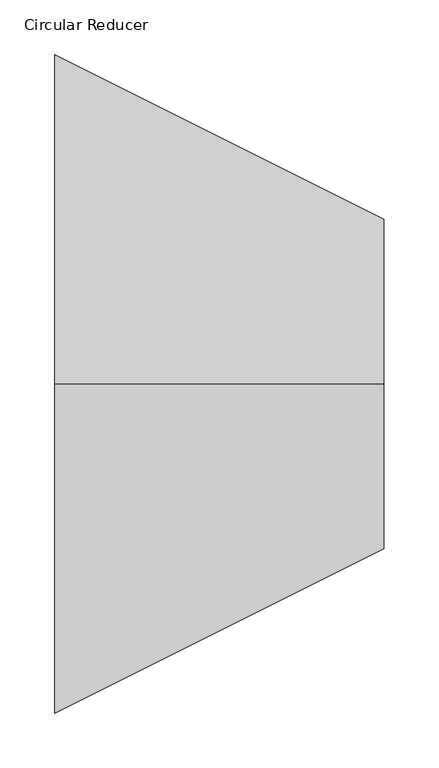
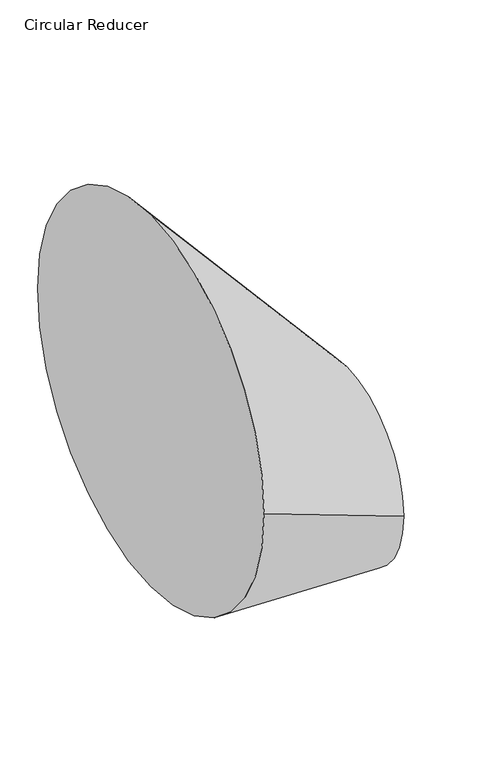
"""IFC4 building model written with IfcOpenShell, lengths in millimetres: duct fitting geometry, Prihoda Circular  Reducer : Circular Reducer."""

from ifc_helpers import new_model, si_unit, frame, origin, place, context, project, spatial, circle_curve, source, transform, mapped, element, save
from ifc_brep_helpers import plane_surface, spline_surface, advanced_brep


def circular_reducer_2c056f90(model_context):
    return source(origin(), model_context, "Body", "AdvancedBrep", [
        advanced_brep(
        [(300.0, 0.0, -50.0), (300.0, -150.0, -200.0), (300.0, 0.0, -350.0), (300.0, 150.0, -200.0), (0.0, 0.0, 300.0), (0.0, 300.0, 0.0), (0.0, 0.0, -300.0), (0.0, -300.0, 0.0)],
        [
            (0, 1, circle_curve(frame((300.0, 0.0, -200.0), z_axis=(1.0, 0.0, 0.0), x_axis=(0.0, 1.0, 0.0)), 150.0)),
            (1, 2, circle_curve(frame((300.0, 0.0, -200.0), z_axis=(1.0, 0.0, 0.0), x_axis=(0.0, 1.0, 0.0)), 150.0)),
            (2, 3, circle_curve(frame((300.0, 0.0, -200.0), z_axis=(1.0, 0.0, 0.0), x_axis=(0.0, 1.0, 0.0)), 150.0)),
            (3, 0, circle_curve(frame((300.0, 0.0, -200.0), z_axis=(1.0, 0.0, 0.0), x_axis=(0.0, 1.0, 0.0)), 150.0)),
            (4, 5, circle_curve(frame((0.0, 0.0, 0.0), z_axis=(-1.0, 0.0, 0.0), x_axis=(0.0, 1.0, 0.0)), 300.0)),
            (5, 6, circle_curve(frame((0.0, 0.0, 0.0), z_axis=(-1.0, 0.0, 0.0), x_axis=(0.0, 1.0, 0.0)), 300.0)),
            (6, 7, circle_curve(frame((0.0, 0.0, 0.0), z_axis=(-1.0, 0.0, 0.0), x_axis=(0.0, 1.0, 0.0)), 300.0)),
            (7, 4, circle_curve(frame((0.0, 0.0, 0.0), z_axis=(-1.0, 0.0, 0.0), x_axis=(0.0, 1.0, 0.0)), 300.0)),
            (7, 1),
            (0, 4),
            (6, 2),
            (5, 3),
        ],
        [
            plane_surface(frame((300.0, 0.0, -200.0), z_axis=(1.0, 0.0, 0.0), x_axis=(0.0, -1.0, 0.0))),
            plane_surface(frame((0.0, 0.0, 0.0), z_axis=(-1.0, 0.0, 0.0), x_axis=(0.0, -1.0, 0.0))),
            spline_surface(2, 1, [[(0.0, 0.0, 300.0), (300.0, 0.0, -50.0)], [(0.0, -300.0, 300.0), (300.0, -150.0, -50.0)], [(0.0, -300.0, 0.0), (300.0, -150.0, -200.0)]], [3, 3], [2, 2], [0.0, 1.0], [0.0, 1.0], weights=[[1.0, 1.0], [0.7071067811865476, 0.7071067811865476], [1.0, 1.0]]),
            spline_surface(2, 1, [[(0.0, -300.0, 0.0), (300.0, -150.0, -200.0)], [(0.0, -300.0, -300.0), (300.0, -150.0, -350.0)], [(0.0, 0.0, -300.0), (300.0, 0.0, -350.0)]], [3, 3], [2, 2], [0.0, 1.0], [0.0, 1.0], weights=[[1.0, 1.0], [0.7071067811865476, 0.7071067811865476], [1.0, 1.0]]),
            spline_surface(2, 1, [[(0.0, 0.0, -300.0), (300.0, 0.0, -350.0)], [(0.0, 300.0, -300.0), (300.0, 150.0, -350.0)], [(0.0, 300.0, 0.0), (300.0, 150.0, -200.0)]], [3, 3], [2, 2], [0.0, 1.0], [0.0, 1.0], weights=[[1.0, 1.0], [0.7071067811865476, 0.7071067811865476], [1.0, 1.0]]),
            spline_surface(2, 1, [[(0.0, 300.0, 0.0), (300.0, 150.0, -200.0)], [(0.0, 300.0, 300.0), (300.0, 150.0, -50.0)], [(0.0, 0.0, 300.0), (300.0, 0.0, -50.0)]], [3, 3], [2, 2], [0.0, 1.0], [0.0, 1.0], weights=[[1.0, 1.0], [0.7071067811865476, 0.7071067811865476], [1.0, 1.0]]),
        ],
        [
            (0, [[1, 2, 3, 4]]),
            (1, [[5, 6, 7, 8]]),
            (2, [[-8, 9, -1, 10]]),
            (3, [[-7, 11, -2, -9]]),
            (4, [[-6, 12, -3, -11]]),
            (5, [[-5, -10, -4, -12]]),
        ],
    ),
    ])


if __name__ == "__main__":
    model = new_model("IFC4")
    model_context = context("Model", 3, world=origin())
    ifc_project = project(units=[si_unit("LENGTHUNIT", "METRE", prefix="MILLI")], contexts=[model_context])
    site = spatial("IfcSite", under=ifc_project)
    building = spatial("IfcBuilding", under=site)
    placement = place(None, origin())
    circular_reducer_shape = circular_reducer_2c056f90(model_context)
    element("IfcDuctFitting", 1, ObjectType="Prihoda Circular  Reducer : Circular Reducer", at=placement, inside=building, context=model_context, shape_type="MappedRepresentation", body=[
        mapped(circular_reducer_shape, transform((0.0, 0.0, 0.0), x_axis=(1.0, 0.0, 0.0), y_axis=(0.0, 1.0, 0.0), z_axis=(0.0, 0.0, 1.0))),
    ])
    save(model, "model.ifc")
